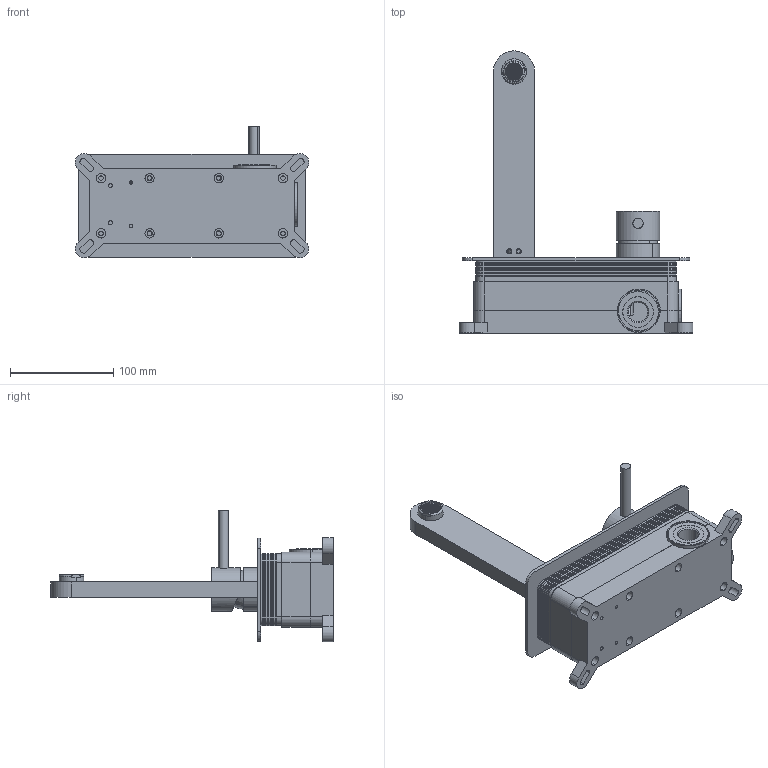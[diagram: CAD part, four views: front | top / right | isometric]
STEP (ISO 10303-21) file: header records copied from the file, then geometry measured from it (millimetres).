
FILE_DESCRIPTION (( 'STEP AP214' ), '1' );
FILE_NAME ('7690602.STEP', '2019-12-19T06:53:33', ( '微软用户' ), ( '微软中国' ), 'SwSTEP 2.0', 'SolidWorks 2014', '' );
FILE_SCHEMA (( 'AUTOMOTIVE_DESIGN' ));
Length unit declared in the file: millimetre
Products named in the file (17): 70651擋66; 70552概郋杶1242; 埴倛倛醱啣512453; M32X1.25装饰杯（塑料）; M37X1.25两级压盖（新）; D35P; 7690602; 2016-3-10d; 2016-3-10b; 2016-3-10a; 擋諉挴1211; 9103忒謫裝ㄗ35郋ㄘ; 9103忒梟(35郋); ぱ籵翋极12; 24厙郲杶; 24厙郋; M24X1两级网嘴胶圈
Assembly tree (17 placements, depth 2):
  7690602
    D35P
    M37X1.25两级压盖（新）
    M32X1.25装饰杯（塑料）
    埴倛倛醱啣512453
    70552概郋杶1242
    70651擋66
    M24X1两级网嘴胶圈
    24厙郋
    24厙郲杶
    ぱ籵翋极12
    9103忒梟(35郋)
    9103忒謫裝ㄗ35郋ㄘ
    擋諉挴1211
    2016-3-10a
    2016-3-10b
    2016-3-10d  x2
Bounding box: 225.99 x 273 x 127.5 mm (x, y, z)
Volume: 460861.7 mm3; surface area: 313271.2 mm2
Topology: 16 solids, 19 shells, 3284 faces, 11849 edges, 7856 vertices
Faces by surface type: plane 1798, cylinder 1337, cone 86, bspline 41, torus 18, sphere 4
Entity records: 164923 total; most frequent: CARTESIAN_POINT 65941, ORIENTED_EDGE 23600, DIRECTION 17050, EDGE_CURVE 11802, VERTEX_POINT 7832, VECTOR 5692, LINE 5692, AXIS2_PLACEMENT_3D 5679
